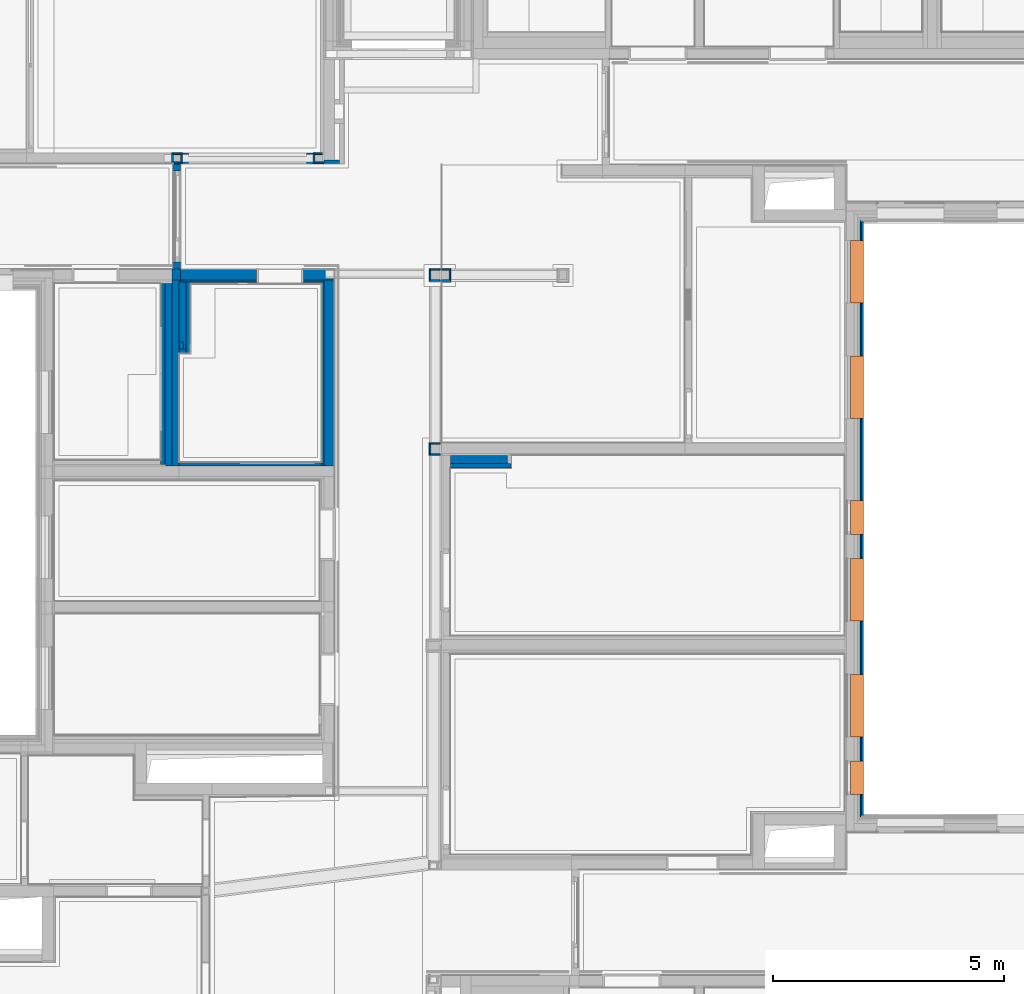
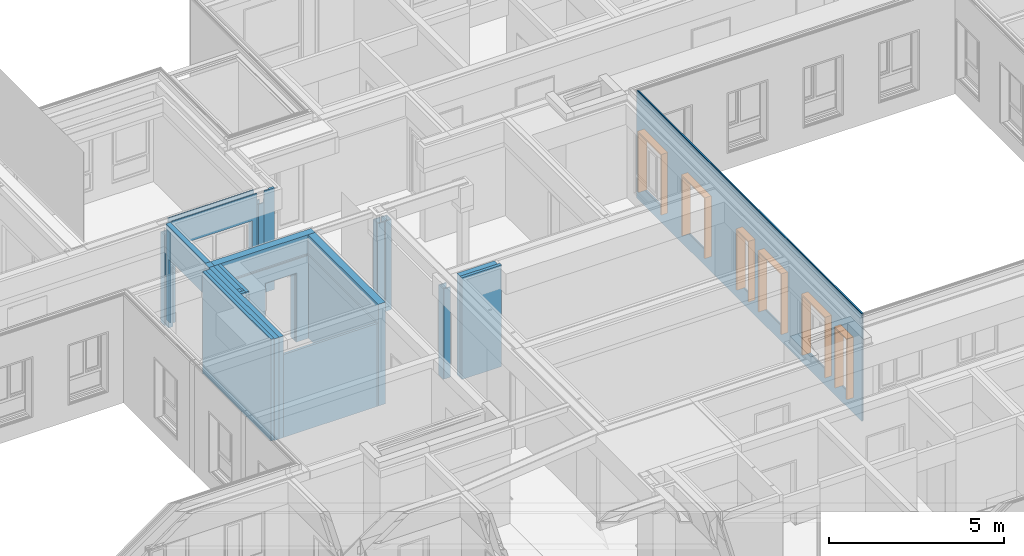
# One storey, part 45 of 222: 37 walls, 6 proxies, 17 openings.
"""IFC4 building model written with IfcOpenShell, lengths in metres."""

from ifc_helpers import new_model, entity, si_unit, converted_unit, derived_unit, frame, frame_2d, origin, origin_with_axes, place, context, subcontext, project, spatial, polyline, rectangle, outline, extrude, clip, bounded_halfspace, faceted_brep, material, element, fill, save


model = new_model("IFC4")

# Units and contexts
model_context = context("Model", 3, precision=1e-05, world=origin())
body_context = subcontext(model_context, "Body", "Model", "MODEL_VIEW")
ifc_project = project(units=[si_unit("LENGTHUNIT", "METRE"), si_unit("AREAUNIT", "SQUARE_METRE"), si_unit("VOLUMEUNIT", "CUBIC_METRE"), si_unit("MASSUNIT", "GRAM", prefix="KILO"), converted_unit("PLANEANGLEUNIT", "DEGREE", entity("IfcPlaneAngleMeasure", 0.0174532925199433), si_unit("PLANEANGLEUNIT", "RADIAN"), dimensions=[0, 0, 0, 0, 0, 0, 0]), derived_unit("THERMALTRANSMITTANCEUNIT", [(si_unit("POWERUNIT", "WATT"), 1), (si_unit("THERMODYNAMICTEMPERATUREUNIT", "KELVIN"), -1), (si_unit("LENGTHUNIT", "METRE"), -2)]), derived_unit("VOLUMETRICFLOWRATEUNIT", [(si_unit("LENGTHUNIT", "METRE"), 3), (converted_unit("TIMEUNIT", "hour", entity("IfcTimeMeasure", 3600.0), si_unit("TIMEUNIT", "SECOND"), dimensions=[0, 0, 1, 0, 0, 0, 0]), -1), (si_unit("LENGTHUNIT", "METRE"), -1)])], contexts=[model_context])

# Site, building, storey
site_placement = place(None, origin())
site = spatial("IfcSite", under=ifc_project, at=site_placement, Name="Psychiatrie Neubau Wunstorf", CompositionType="ELEMENT")
building_placement = place(site_placement, origin())
building = spatial("IfcBuilding", under=site, at=building_placement, Name="Neubau H2 Stationsgebäude", CompositionType="ELEMENT")
storey_placement = place(building_placement, frame((0.0, 0.0, 3.6)))
storey = spatial("IfcBuildingStorey", under=building, at=storey_placement, Name="H2 Ebene +1", CompositionType="ELEMENT", Elevation=3.6)

# Wall, openings
ifc_material_1 = material(Name="WA-TL")
wall_1_placement = place(storey_placement, frame((79.475, 21.640001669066, 0.0), z_axis=(0.0, 0.0, 1.0), x_axis=(0.0, -1.0, 0.0)))
wall_1 = element("IfcWall", 1, at=wall_1_placement, inside=storey, material=ifc_material_1, context=body_context, shape_type="SweptSolid", body=[
    extrude(rectangle(XDim=12.8899924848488, YDim=0.024, at=frame_2d((6.44499624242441, 0.012), x_axis=(1.0, 0.0))), origin_with_axes(), (0.0, 0.0, 1.0), 3.75),
])
opening_1_placement = place(wall_1_placement, frame((11.1565882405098, 0.024, 0.55), z_axis=(0.0, -1.0, 0.0), x_axis=(0.0, 0.0, 1.0)))
element("IfcOpeningElement", 2, at=opening_1_placement, cuts=wall_1, Name="Fensteröffnung", ObjectType="Opening", context=body_context, shape_type="SweptSolid", body=[
    extrude(outline(polyline([(2.115, 1.35), (2.115, 0.0), (0.0, 0.0), (0.0, 1.35), (2.115, 1.35)])), origin_with_axes(), (0.0, 0.0, 1.0), 0.024),
])
opening_2_placement = place(wall_1_placement, frame((8.65664578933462, 0.024, 0.55), z_axis=(0.0, -1.0, 0.0), x_axis=(0.0, 0.0, 1.0)))
element("IfcOpeningElement", 3, at=opening_2_placement, cuts=wall_1, Name="Fensteröffnung", ObjectType="Opening", context=body_context, shape_type="SweptSolid", body=[
    extrude(outline(polyline([(2.115, 1.35), (2.115, 0.0), (0.0, 0.0), (0.0, 1.35), (2.115, 1.35)])), origin_with_axes(), (0.0, 0.0, 1.0), 0.024),
])
opening_3_placement = place(wall_1_placement, frame((4.28200631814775, 0.024, 0.55), z_axis=(0.0, -1.0, 0.0), x_axis=(0.0, 0.0, 1.0)))
element("IfcOpeningElement", 4, at=opening_3_placement, cuts=wall_1, Name="Fensteröffnung", ObjectType="Opening", context=body_context, shape_type="SweptSolid", body=[
    extrude(outline(polyline([(2.115, 1.35), (2.115, 0.0), (0.0, 0.0), (0.0, 1.35), (2.115, 1.35)])), origin_with_axes(), (0.0, 0.0, 1.0), 0.024),
])
opening_4_placement = place(wall_1_placement, frame((1.78244645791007, 0.024, 0.55), z_axis=(0.0, -1.0, 0.0), x_axis=(0.0, 0.0, 1.0)))
element("IfcOpeningElement", 5, at=opening_4_placement, cuts=wall_1, Name="Fensteröffnung", ObjectType="Opening", context=body_context, shape_type="SweptSolid", body=[
    extrude(outline(polyline([(2.115, 1.35), (2.115, 0.0), (0.0, 0.0), (0.0, 1.35), (2.115, 1.35)])), origin_with_axes(), (0.0, 0.0, 1.0), 0.024),
])
opening_5_placement = place(wall_1_placement, frame((12.4050016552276, 0.024, 0.55), z_axis=(0.0, -1.0, 0.0), x_axis=(0.0, 0.0, 1.0)))
element("IfcOpeningElement", 6, at=opening_5_placement, cuts=wall_1, Name="Fensteröffnung", ObjectType="Opening", context=body_context, shape_type="SweptSolid", body=[
    extrude(outline(polyline([(2.115, 0.725), (2.115, 0.0), (0.0, 0.0), (0.0, 0.725), (2.115, 0.725)])), origin_with_axes(), (0.0, 0.0, 1.0), 0.024),
])
opening_6_placement = place(wall_1_placement, frame((6.78238889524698, 0.024, 0.55), z_axis=(0.0, -1.0, 0.0), x_axis=(0.0, 0.0, 1.0)))
element("IfcOpeningElement", 7, at=opening_6_placement, cuts=wall_1, Name="Fensteröffnung", ObjectType="Opening", context=body_context, shape_type="SweptSolid", body=[
    extrude(outline(polyline([(2.115, 0.725), (2.115, 0.0), (0.0, 0.0), (0.0, 0.725), (2.115, 0.725)])), origin_with_axes(), (0.0, 0.0, 1.0), 0.024),
])

# Wall, openings, proxies
ifc_material_2 = material(Name="WA-HS")
wall_2_placement = place(storey_placement, frame((79.499, 21.616001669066, 0.0), z_axis=(0.0, 0.0, 1.0), x_axis=(0.0, -1.0, 0.0)))
wall_2 = element("IfcWall", 8, at=wall_2_placement, inside=storey, material=ifc_material_2, context=body_context, shape_type="SweptSolid", body=[
    extrude(rectangle(XDim=12.8419924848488, YDim=0.042, at=frame_2d((6.42099624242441, 0.021), x_axis=(1.0, 0.0))), origin_with_axes(), (0.0, 0.0, 1.0), 3.75),
])
opening_7_placement = place(wall_2_placement, frame((11.1325882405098, 0.042, 0.55), z_axis=(0.0, -1.0, 0.0), x_axis=(0.0, 0.0, 1.0)))
opening_7 = element("IfcOpeningElement", 9, at=opening_7_placement, cuts=wall_2, Name="Fensteröffnung", ObjectType="Opening", context=body_context, shape_type="SweptSolid", body=[
    extrude(outline(polyline([(2.115, 1.35), (2.115, 0.0), (0.0, 0.0), (0.0, 1.35), (2.115, 1.35)])), origin_with_axes(), (0.0, 0.0, 1.0), 0.042),
])
opening_8_placement = place(wall_2_placement, frame((8.63264578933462, 0.042, 0.55), z_axis=(0.0, -1.0, 0.0), x_axis=(0.0, 0.0, 1.0)))
opening_8 = element("IfcOpeningElement", 10, at=opening_8_placement, cuts=wall_2, Name="Fensteröffnung", ObjectType="Opening", context=body_context, shape_type="SweptSolid", body=[
    extrude(outline(polyline([(2.115, 1.35), (2.115, 0.0), (0.0, 0.0), (0.0, 1.35), (2.115, 1.35)])), origin_with_axes(), (0.0, 0.0, 1.0), 0.042),
])
opening_9_placement = place(wall_2_placement, frame((4.25800631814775, 0.042, 0.55), z_axis=(0.0, -1.0, 0.0), x_axis=(0.0, 0.0, 1.0)))
opening_9 = element("IfcOpeningElement", 11, at=opening_9_placement, cuts=wall_2, Name="Fensteröffnung", ObjectType="Opening", context=body_context, shape_type="SweptSolid", body=[
    extrude(outline(polyline([(2.115, 1.35), (2.115, 0.0), (0.0, 0.0), (0.0, 1.35), (2.115, 1.35)])), origin_with_axes(), (0.0, 0.0, 1.0), 0.042),
])
opening_10_placement = place(wall_2_placement, frame((1.75844645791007, 0.042, 0.55), z_axis=(0.0, -1.0, 0.0), x_axis=(0.0, 0.0, 1.0)))
opening_10 = element("IfcOpeningElement", 12, at=opening_10_placement, cuts=wall_2, Name="Fensteröffnung", ObjectType="Opening", context=body_context, shape_type="SweptSolid", body=[
    extrude(outline(polyline([(2.115, 1.35), (2.115, 0.0), (0.0, 0.0), (0.0, 1.35), (2.115, 1.35)])), origin_with_axes(), (0.0, 0.0, 1.0), 0.042),
])
opening_11_placement = place(wall_2_placement, frame((12.3810016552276, 0.042, 0.55), z_axis=(0.0, -1.0, 0.0), x_axis=(0.0, 0.0, 1.0)))
opening_11 = element("IfcOpeningElement", 13, at=opening_11_placement, cuts=wall_2, Name="Fensteröffnung", ObjectType="Opening", context=body_context, shape_type="SweptSolid", body=[
    extrude(outline(polyline([(2.115, 0.725), (2.115, 0.0), (0.0, 0.0), (0.0, 0.725), (2.115, 0.725)])), origin_with_axes(), (0.0, 0.0, 1.0), 0.042),
])
opening_12_placement = place(wall_2_placement, frame((6.75838889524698, 0.042, 0.55), z_axis=(0.0, -1.0, 0.0), x_axis=(0.0, 0.0, 1.0)))
opening_12 = element("IfcOpeningElement", 14, at=opening_12_placement, cuts=wall_2, Name="Fensteröffnung", ObjectType="Opening", context=body_context, shape_type="SweptSolid", body=[
    extrude(outline(polyline([(2.115, 0.725), (2.115, 0.0), (0.0, 0.0), (0.0, 0.725), (2.115, 0.725)])), origin_with_axes(), (0.0, 0.0, 1.0), 0.042),
])
ifc_material_3 = material(Name="WA-HS")
proxy_1_placement = place(opening_7_placement, frame((0.0, 0.0, 0.275)))
proxy_1 = element("IfcBuildingElementProxy", 15, at=proxy_1_placement, inside=storey, material=ifc_material_3, context=body_context, shape_type="Brep", body=[
    faceted_brep([(0.0, 1.35, 0.0), (0.0, 1.35, -0.275), (2.115, 1.35, -0.275), (2.115, 1.35, 0.0), (2.115, 0.0, -0.275), (2.115, 0.0, 0.0), (0.0, 1.3, -0.275), (0.0, 1.3, 0.0), (0.0, 0.0, 0.0), (0.0, 0.05, 0.0), (2.065, 0.05, 0.0), (2.065, 1.3, 0.0), (2.065, 1.3, -0.275), (2.065, 0.05, -0.275), (0.0, 0.05, -0.275), (0.0, 0.0, -0.275)], [[[0, 1, 2, 3]], [[2, 4, 5, 3]], [[6, 1, 0, 7]], [[7, 0, 3, 5, 8, 9, 10, 11]], [[1, 6, 12, 13, 14, 15, 4, 2]], [[6, 7, 11, 12]], [[15, 8, 5, 4]], [[15, 14, 9, 8]], [[9, 14, 13, 10]], [[10, 13, 12, 11]]], orient=[[False], [False], [False], [False], [False], [False], [False], [False], [False], [False]]),
])
fill(opening_7, proxy_1)
ifc_material_4 = material(Name="WA-HS")
proxy_2_placement = place(opening_8_placement, frame((0.0, 0.0, 0.275)))
proxy_2 = element("IfcBuildingElementProxy", 16, at=proxy_2_placement, inside=storey, material=ifc_material_4, context=body_context, shape_type="Brep", body=[
    faceted_brep([(0.0, 0.0, -0.275), (0.0, 0.0, 0.0), (2.115, 0.0, 0.0), (2.115, 0.0, -0.275), (0.0, 0.05, 0.0), (0.0, 0.05, -0.275), (2.065, 0.05, -0.275), (2.065, 0.05, 0.0), (2.115, 1.35, 0.0), (2.115, 1.35, -0.275), (0.0, 1.35, -0.275), (0.0, 1.3, -0.275), (2.065, 1.3, -0.275), (2.065, 1.3, 0.0), (0.0, 1.3, 0.0), (0.0, 1.35, 0.0)], [[[0, 1, 2, 3]], [[4, 5, 6, 7]], [[0, 5, 4, 1]], [[3, 2, 8, 9]], [[6, 5, 0, 3, 9, 10, 11, 12]], [[13, 14, 15, 8, 2, 1, 4, 7]], [[7, 6, 12, 13]], [[11, 14, 13, 12]], [[15, 10, 9, 8]], [[11, 10, 15, 14]]], orient=[[False], [False], [False], [False], [False], [False], [False], [False], [False], [False]]),
])
fill(opening_8, proxy_2)
ifc_material_5 = material(Name="WA-HS")
proxy_3_placement = place(opening_9_placement, frame((0.0, 0.0, 0.275)))
proxy_3 = element("IfcBuildingElementProxy", 17, at=proxy_3_placement, inside=storey, material=ifc_material_5, context=body_context, shape_type="Brep", body=[
    faceted_brep([(0.0, 0.0, -0.275), (0.0, 0.0, 0.0), (2.115, 0.0, 0.0), (2.115, 0.0, -0.275), (0.0, 0.05, 0.0), (0.0, 0.05, -0.275), (2.065, 0.05, -0.275), (2.065, 0.05, 0.0), (2.115, 1.35, 0.0), (2.115, 1.35, -0.275), (0.0, 1.35, -0.275), (0.0, 1.3, -0.275), (2.065, 1.3, -0.275), (2.065, 1.3, 0.0), (0.0, 1.3, 0.0), (0.0, 1.35, 0.0)], [[[0, 1, 2, 3]], [[4, 5, 6, 7]], [[0, 5, 4, 1]], [[3, 2, 8, 9]], [[6, 5, 0, 3, 9, 10, 11, 12]], [[13, 14, 15, 8, 2, 1, 4, 7]], [[7, 6, 12, 13]], [[11, 14, 13, 12]], [[15, 10, 9, 8]], [[11, 10, 15, 14]]], orient=[[False], [False], [False], [False], [False], [False], [False], [False], [False], [False]]),
])
fill(opening_9, proxy_3)
ifc_material_6 = material(Name="WA-HS")
proxy_4_placement = place(opening_10_placement, frame((0.0, 0.0, 0.275)))
proxy_4 = element("IfcBuildingElementProxy", 18, at=proxy_4_placement, inside=storey, material=ifc_material_6, context=body_context, shape_type="Brep", body=[
    faceted_brep([(0.0, 1.35, 0.0), (0.0, 1.35, -0.275), (2.115, 1.35, -0.275), (2.115, 1.35, 0.0), (2.115, 0.0, -0.275), (2.115, 0.0, 0.0), (0.0, 1.3, -0.275), (0.0, 1.3, 0.0), (0.0, 0.0, 0.0), (0.0, 0.05, 0.0), (2.065, 0.05, 0.0), (2.065, 1.3, 0.0), (2.065, 1.3, -0.275), (2.065, 0.05, -0.275), (0.0, 0.05, -0.275), (0.0, 0.0, -0.275)], [[[0, 1, 2, 3]], [[2, 4, 5, 3]], [[6, 1, 0, 7]], [[7, 0, 3, 5, 8, 9, 10, 11]], [[1, 6, 12, 13, 14, 15, 4, 2]], [[6, 7, 11, 12]], [[15, 8, 5, 4]], [[15, 14, 9, 8]], [[9, 14, 13, 10]], [[10, 13, 12, 11]]], orient=[[False], [False], [False], [False], [False], [False], [False], [False], [False], [False]]),
])
fill(opening_10, proxy_4)
ifc_material_7 = material(Name="WA-HS")
proxy_5_placement = place(opening_11_placement, frame((0.0, 0.0, 0.275)))
proxy_5 = element("IfcBuildingElementProxy", 19, at=proxy_5_placement, inside=storey, material=ifc_material_7, context=body_context, shape_type="Brep", body=[
    faceted_brep([(0.0, 0.725, 0.0), (0.0, 0.725, -0.275), (2.115, 0.725, -0.275), (2.115, 0.725, 0.0), (2.115, 0.0, -0.275), (2.115, 0.0, 0.0), (0.0, 0.675, -0.275), (0.0, 0.675, 0.0), (0.0, 0.0, 0.0), (0.0, 0.05, 0.0), (2.065, 0.05, 0.0), (2.065, 0.675, 0.0), (2.065, 0.675, -0.275), (2.065, 0.05, -0.275), (0.0, 0.05, -0.275), (0.0, 0.0, -0.275)], [[[0, 1, 2, 3]], [[2, 4, 5, 3]], [[6, 1, 0, 7]], [[7, 0, 3, 5, 8, 9, 10, 11]], [[1, 6, 12, 13, 14, 15, 4, 2]], [[6, 7, 11, 12]], [[15, 8, 5, 4]], [[15, 14, 9, 8]], [[9, 14, 13, 10]], [[10, 13, 12, 11]]], orient=[[False], [False], [False], [False], [False], [False], [False], [False], [False], [False]]),
])
fill(opening_11, proxy_5)
ifc_material_8 = material(Name="WA-HS")
proxy_6_placement = place(opening_12_placement, frame((0.0, 0.0, 0.275)))
proxy_6 = element("IfcBuildingElementProxy", 20, at=proxy_6_placement, inside=storey, material=ifc_material_8, context=body_context, shape_type="Brep", body=[
    faceted_brep([(0.0, 0.0, -0.275), (0.0, 0.0, 0.0), (2.115, 0.0, 0.0), (2.115, 0.0, -0.275), (0.0, 0.05, 0.0), (0.0, 0.05, -0.275), (2.065, 0.05, -0.275), (2.065, 0.05, 0.0), (2.115, 0.725, 0.0), (2.115, 0.725, -0.275), (0.0, 0.725, -0.275), (0.0, 0.675, -0.275), (2.065, 0.675, -0.275), (2.065, 0.675, 0.0), (0.0, 0.675, 0.0), (0.0, 0.725, 0.0)], [[[0, 1, 2, 3]], [[4, 5, 6, 7]], [[0, 5, 4, 1]], [[3, 2, 8, 9]], [[6, 5, 0, 3, 9, 10, 11, 12]], [[13, 14, 15, 8, 2, 1, 4, 7]], [[7, 6, 12, 13]], [[11, 14, 13, 12]], [[15, 10, 9, 8]], [[11, 10, 15, 14]]], orient=[[False], [False], [False], [False], [False], [False], [False], [False], [False], [False]]),
])
fill(opening_12, proxy_6)

# Walls
ifc_material_9 = material(Name="WI-GKF")
wall_3_placement = place(storey_placement, frame((70.1900061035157, 16.5605, 0.0)))
element("IfcWall", 21, at=wall_3_placement, inside=storey, material=ifc_material_9, context=body_context, shape_type="SweptSolid", body=[
    extrude(rectangle(XDim=0.209993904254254, YDim=0.036, at=frame_2d((0.104996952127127, 0.018), x_axis=(1.0, 0.0))), origin_with_axes(), (0.0, 0.0, 1.0), 3.15),
])
ifc_material_10 = material(Name="WI-GKF")
wall_4_placement = place(storey_placement, frame((70.4000061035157, 16.8325, 0.0), z_axis=(0.0, 0.0, 1.0), x_axis=(-1.0, 0.0, 0.0)))
element("IfcWall", 22, at=wall_4_placement, inside=storey, material=ifc_material_10, context=body_context, shape_type="SweptSolid", body=[
    extrude(outline(polyline([(-0.200007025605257, -0.036), (0.0, -0.036), (-9.29859525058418e-07, 0.0), (-0.200007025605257, 0.0), (-0.200007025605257, -0.036)])), frame((0.200007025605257, 0.036, 0.0), z_axis=(0.0, 0.0, 1.0), x_axis=(1.0, 0.0, 0.0)), (0.0, 0.0, 1.0), 3.15),
])

# Wall, opening
ifc_material_11 = material(Name="WI-HW 60")
wall_5_placement = place(storey_placement, frame((68.1175, 20.5859981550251, 0.0), z_axis=(0.0, 0.0, 1.0), x_axis=(-1.0, -1.87390953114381e-08, 0.0)))
wall_5 = element("IfcWall", 23, at=wall_5_placement, inside=storey, material=ifc_material_11, context=body_context, shape_type="SweptSolid", body=[
    extrude(outline(polyline([(-3.32400000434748, -0.231999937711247), (0.0, -0.231999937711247), (0.0, 0.0), (-3.32400000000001, 6.22887528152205e-08), (-3.32400000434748, -0.231999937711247)])), frame((3.32400000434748, 0.231999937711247, 0.0), z_axis=(0.0, 0.0, 1.0), x_axis=(1.0, 0.0, 0.0)), (0.0, 0.0, 1.0), 3.55),
])
opening_13_placement = place(wall_5_placement, frame((0.672000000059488, -1.25926720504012e-08, 0.0), z_axis=(1.87390955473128e-08, 1.0, 0.0), x_axis=(0.0, 0.0, 1.0)))
element("IfcOpeningElement", 24, at=opening_13_placement, cuts=wall_5, Name="Türöffnung", ObjectType="Opening", context=body_context, shape_type="SweptSolid", body=[
    extrude(outline(polyline([(2.41, 1.01), (2.41, 0.0), (0.0, 0.0), (0.0, 1.01), (2.41, 1.01)])), origin_with_axes(), (0.0, 0.0, 1.0), 0.232),
])

ifc_material_12 = material(Name="Installationsraum")
wall_6_placement = place(storey_placement, frame((67.8855, 20.3539981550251, 0.0), z_axis=(0.0, 0.0, 1.0), x_axis=(-1.0, 0.0, 0.0)))
wall_6 = element("IfcWall", 25, at=wall_6_placement, inside=storey, material=ifc_material_12, context=body_context, shape_type="SweptSolid", body=[
    extrude(rectangle(XDim=3.09200000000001, YDim=0.05, at=frame_2d((1.54600000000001, 0.025), x_axis=(1.0, 0.0))), origin_with_axes(), (0.0, 0.0, 1.0), 2.9),
])
opening_14_placement = place(wall_6_placement, frame((0.440000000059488, 0.0, 0.0), z_axis=(0.0, 1.0, 0.0), x_axis=(0.0, 0.0, 1.0)))
element("IfcOpeningElement", 26, at=opening_14_placement, cuts=wall_6, Name="Türöffnung", ObjectType="Opening", context=body_context, shape_type="SweptSolid", body=[
    extrude(outline(polyline([(2.41, 1.01), (2.41, 0.0), (0.0, 0.0), (0.0, 1.01), (2.41, 1.01)])), origin_with_axes(), (0.0, 0.0, 1.0), 0.05),
])

ifc_material_13 = material(Name="WI-LB")
wall_7_placement = place(storey_placement, frame((67.8455, 20.3039981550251, 0.0), z_axis=(0.0, 0.0, 1.0), x_axis=(-1.0, 0.0, 0.0)))
wall_7 = element("IfcWall", 27, at=wall_7_placement, inside=storey, material=ifc_material_13, context=body_context, shape_type="SweptSolid", body=[
    extrude(rectangle(XDim=2.8355, YDim=0.04, at=frame_2d((1.41775, 0.02), x_axis=(1.0, 0.0))), origin_with_axes(), (0.0, 0.0, 1.0), 2.9),
])
opening_15_placement = place(wall_7_placement, frame((0.400000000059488, 0.0, 0.0), z_axis=(0.0, 1.0, 0.0), x_axis=(0.0, 0.0, 1.0)))
element("IfcOpeningElement", 28, at=opening_15_placement, cuts=wall_7, Name="Türöffnung", ObjectType="Opening", context=body_context, shape_type="SweptSolid", body=[
    extrude(outline(polyline([(2.41, 1.01), (2.41, 0.0), (0.0, 0.0), (0.0, 1.01), (2.41, 1.01)])), origin_with_axes(), (0.0, 0.0, 1.0), 0.04),
])

# Walls
ifc_material_14 = material(Name="WI-LB")
wall_8_placement = place(storey_placement, frame((67.8455, 20.3039981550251, 0.0), z_axis=(0.0, 0.0, 1.0), x_axis=(0.0, -1.0, 0.0)))
element("IfcWall", 29, at=wall_8_placement, inside=storey, material=ifc_material_14, context=body_context, shape_type="SweptSolid", body=[
    extrude(rectangle(XDim=3.96799815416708, YDim=0.04, at=frame_2d((1.98399907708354, 0.02), x_axis=(1.0, 0.0))), origin_with_axes(), (0.0, 0.0, 1.0), 2.9),
])
ifc_material_15 = material(Name="WI-HW 60")
wall_9_placement = place(storey_placement, frame((67.8855, 20.3539981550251, 0.0), z_axis=(0.0, 0.0, 1.0), x_axis=(0.0, -1.0, 0.0)))
element("IfcWall", 30, at=wall_9_placement, inside=storey, material=ifc_material_15, context=body_context, shape_type="SweptSolid", body=[
    extrude(rectangle(XDim=4.01799815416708, YDim=0.232, at=frame_2d((2.00899907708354, 0.116), x_axis=(1.0, 0.0))), origin_with_axes(), (0.0, 0.0, 1.0), 3.55),
])
ifc_material_16 = material(Name="WI-GKF")
wall_10_placement = place(storey_placement, frame((70.1640061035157, 16.8325, 0.0), z_axis=(0.0, 0.0, 1.0), x_axis=(0.0, -1.0, 0.0)))
element("IfcWall", 31, at=wall_10_placement, inside=storey, material=ifc_material_16, context=body_context, shape_type="SweptSolid", body=[
    extrude(outline(polyline([(-0.272, 0.0), (0.0, 0.0), (0.0, 0.026), (-0.036, 0.026), (-0.036, 0.0359939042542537), (-0.236000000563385, 0.0359939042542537), (-0.272, 0.0359929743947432), (-0.272, 0.0)])), frame((0.272, 0.0, 0.0), z_axis=(0.0, 0.0, 1.0), x_axis=(1.0, 0.0, 0.0)), (0.0, 0.0, 1.0), 3.15),
])
ifc_material_17 = material(Name="WI-GKF")
wall_11_placement = place(storey_placement, frame((70.4000000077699, 20.5920009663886, 0.0), z_axis=(0.0, 0.0, 1.0), x_axis=(-1.0, 0.0, 0.0)))
element("IfcWall", 32, at=wall_11_placement, inside=storey, material=ifc_material_17, context=body_context, shape_type="SweptSolid", body=[
    extrude(rectangle(XDim=0.235992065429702, YDim=0.036, at=frame_2d((0.117996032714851, 0.018), x_axis=(1.0, 0.0))), origin_with_axes(), (0.0, 0.0, 1.0), 3.15),
])
ifc_material_18 = material(Name="WI-GKF")
wall_12_placement = place(storey_placement, frame((70.1640079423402, 20.3200009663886, 0.0)))
element("IfcWall", 33, at=wall_12_placement, inside=storey, material=ifc_material_18, context=body_context, shape_type="SweptSolid", body=[
    extrude(rectangle(XDim=0.235992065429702, YDim=0.036, at=frame_2d((0.117996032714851, 0.018), x_axis=(1.0, 0.0))), origin_with_axes(), (0.0, 0.0, 1.0), 3.15),
])
ifc_material_19 = material(Name="WI-GKF")
wall_13_placement = place(storey_placement, frame((70.4300000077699, 20.3200009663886, 0.0)))
element("IfcWall", 34, at=wall_13_placement, inside=storey, material=ifc_material_19, context=body_context, shape_type="SweptSolid", body=[
    extrude(rectangle(XDim=0.196, YDim=0.036, at=frame_2d((0.098, 0.018), x_axis=(1.0, 0.0))), origin_with_axes(), (0.0, 0.0, 1.0), 3.15),
])
ifc_material_20 = material(Name="WI-GKF")
wall_14_placement = place(storey_placement, frame((70.1640079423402, 20.5560009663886, 0.0), z_axis=(0.0, 0.0, 1.0), x_axis=(0.0, -1.0, 0.0)))
element("IfcWall", 35, at=wall_14_placement, inside=storey, material=ifc_material_20, context=body_context, shape_type="SweptSolid", body=[
    extrude(outline(polyline([(-0.2, 0.0), (0.0, 0.0), (0.0, 0.0359981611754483), (-0.144624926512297, 0.0359920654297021), (-0.144624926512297, 0.0359981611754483), (-0.2, 0.0359981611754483), (-0.2, 0.0)])), frame((0.2, 0.0, 0.0), z_axis=(0.0, 0.0, 1.0), x_axis=(1.0, 0.0, 0.0)), (0.0, 0.0, 1.0), 3.15),
])
ifc_material_21 = material(Name="WI-GKF")
wall_15_placement = place(storey_placement, frame((70.6260000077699, 20.3560009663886, 0.0), z_axis=(0.0, 0.0, 1.0), x_axis=(0.0, 1.0, 0.0)))
element("IfcWall", 36, at=wall_15_placement, inside=storey, material=ifc_material_21, context=body_context, shape_type="SweptSolid", body=[
    extrude(rectangle(XDim=0.200002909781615, YDim=0.036, at=frame_2d((0.100001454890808, 0.018), x_axis=(1.0, 0.0))), origin_with_axes(), (0.0, 0.0, 1.0), 3.15),
])
ifc_material_22 = material(Name="WI-GKF")
wall_16_placement = place(storey_placement, frame((70.6260000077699, 20.5920009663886, 0.0), z_axis=(0.0, 0.0, 1.0), x_axis=(-1.0, 0.0, 0.0)))
element("IfcWall", 37, at=wall_16_placement, inside=storey, material=ifc_material_22, context=body_context, shape_type="SweptSolid", body=[
    extrude(outline(polyline([(-0.196, -0.036), (0.0, -0.036), (0.0, 0.0), (-0.16, 0.0), (-0.16, -2.90978161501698e-06), (-0.196, -2.90978161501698e-06), (-0.196, -0.036)])), frame((0.196, 0.036, 0.0), z_axis=(0.0, 0.0, 1.0), x_axis=(1.0, 0.0, 0.0)), (0.0, 0.0, 1.0), 3.15),
])
ifc_material_23 = material(Name="WI-IW")
wall_17_placement = place(storey_placement, frame((64.76, 18.7609960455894, 0.0)))
element("IfcWall", 38, at=wall_17_placement, inside=storey, material=ifc_material_23, context=body_context, shape_type="SweptSolid", body=[
    extrude(rectangle(XDim=0.15, YDim=0.1, at=frame_2d((0.075, 0.05), x_axis=(1.0, 0.0))), origin_with_axes(), (0.0, 0.0, 1.0), 3.55),
])
ifc_material_24 = material(Name="Installationsraum")
wall_18_placement = place(storey_placement, frame((64.76, 18.8609960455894, 0.0)))
element("IfcWall", 39, at=wall_18_placement, inside=storey, material=ifc_material_24, context=body_context, shape_type="SweptSolid", body=[
    extrude(rectangle(XDim=0.100000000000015, YDim=0.15, at=frame_2d((0.0500000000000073, 0.075), x_axis=(1.0, 0.0))), origin_with_axes(), (0.0, 0.0, 1.0), 3.55),
])
ifc_material_25 = material(Name="WI-LB")
wall_19_placement = place(storey_placement, frame((67.889, 22.8639999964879, 0.0)))
element("IfcWall", 40, at=wall_19_placement, inside=storey, material=ifc_material_25, context=body_context, shape_type="Clipping", body=[
    clip(extrude(rectangle(XDim=0.332, YDim=0.075, at=frame_2d((0.166, 0.0375), x_axis=(1.0, 0.0))), origin_with_axes(), (0.0, 0.0, 1.0), 3.55), bounded_halfspace(frame((0.0819999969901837, 0.0555000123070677, 3.25), z_axis=(0.0, 0.0, -1.0), x_axis=(-1.0, 0.0, 0.0)), True, origin_with_axes(), polyline([(0.163999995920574, 0.075), (0.0, 0.075), (0.0, 0.0360000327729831), (0.163999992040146, 0.0360000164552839), (0.163999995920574, 0.075)]))),
])
ifc_material_26 = material(Name="WI-IW")
wall_20_placement = place(storey_placement, frame((64.36, 20.2789981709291, 0.0), z_axis=(0.0, 0.0, 1.0), x_axis=(0.0, -1.0, 0.0)))
element("IfcWall", 41, at=wall_20_placement, inside=storey, material=ifc_material_26, context=body_context, shape_type="SweptSolid", body=[
    extrude(rectangle(XDim=3.91799817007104, YDim=0.1, at=frame_2d((1.95899908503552, 0.05), x_axis=(1.0, 0.0))), origin_with_axes(), (0.0, 0.0, 1.0), 3.55),
])
ifc_material_27 = material(Name="Installationsraum")
wall_21_placement = place(storey_placement, frame((64.46, 20.2789981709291, 0.0), z_axis=(0.0, 0.0, 1.0), x_axis=(0.0, -1.0, 0.0)))
element("IfcWall", 42, at=wall_21_placement, inside=storey, material=ifc_material_27, context=body_context, shape_type="SweptSolid", body=[
    extrude(rectangle(XDim=3.94299817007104, YDim=0.15, at=frame_2d((1.97149908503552, 0.075), x_axis=(1.0, 0.0))), origin_with_axes(), (0.0, 0.0, 1.0), 3.55),
])
ifc_material_28 = material(Name="WI-IW")
wall_22_placement = place(storey_placement, frame((65.01, 18.7609960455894, 0.0), z_axis=(0.0, 0.0, 1.0), x_axis=(0.0, 1.0, 0.0)))
element("IfcWall", 43, at=wall_22_placement, inside=storey, material=ifc_material_28, context=body_context, shape_type="SweptSolid", body=[
    extrude(rectangle(XDim=1.59300210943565, YDim=0.1, at=frame_2d((0.796501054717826, 0.05), x_axis=(1.0, 0.0))), origin_with_axes(), (0.0, 0.0, 1.0), 3.55),
])
ifc_material_29 = material(Name="Installationsraum")
wall_23_placement = place(storey_placement, frame((64.91, 18.8609960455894, 0.0), z_axis=(0.0, 0.0, 1.0), x_axis=(0.0, 1.0, 0.0)))
element("IfcWall", 44, at=wall_23_placement, inside=storey, material=ifc_material_29, context=body_context, shape_type="SweptSolid", body=[
    extrude(outline(polyline([(0.0, -0.15), (1.49300210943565, -0.15), (1.49300210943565, 0.0), (0.15, 0.0), (0.15, -0.1), (0.0, -0.1), (0.0, -0.15)])), frame((0.0, 0.15, 0.0), z_axis=(0.0, 0.0, 1.0), x_axis=(1.0, 0.0, 0.0)), (0.0, 0.0, 1.0), 3.55),
])
ifc_material_30 = material(Name="WI-IW")
wall_24_placement = place(storey_placement, frame((67.8455, 16.411000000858, 0.0), z_axis=(0.0, 0.0, 1.0), x_axis=(-1.0, 0.0, 0.0)))
element("IfcWall", 45, at=wall_24_placement, inside=storey, material=ifc_material_30, context=body_context, shape_type="SweptSolid", body=[
    extrude(rectangle(XDim=3.08550000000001, YDim=0.0750000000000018, at=frame_2d((1.54275000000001, 0.0375000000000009), x_axis=(1.0, 0.0))), origin_with_axes(), (0.0, 0.0, 1.0), 2.9),
])
ifc_material_31 = material(Name="WI-LB")
wall_25_placement = place(storey_placement, frame((64.76, 16.336000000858, 0.0), z_axis=(0.0, 0.0, 1.0), x_axis=(0.0, 1.0, 0.0)))
element("IfcWall", 46, at=wall_25_placement, inside=storey, material=ifc_material_31, context=body_context, shape_type="SweptSolid", body=[
    extrude(rectangle(XDim=4.01799815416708, YDim=0.15, at=frame_2d((2.00899907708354, 0.075), x_axis=(1.0, 0.0))), origin_with_axes(), (0.0, 0.0, 1.0), 3.55),
])

# Wall, opening
ifc_material_32 = material(Name="WI-LW 60")
wall_26_placement = place(storey_placement, frame((64.6385, 22.8639999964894, 0.0), z_axis=(0.0, 0.0, 1.0), x_axis=(0.0, -1.0, 0.0)))
wall_26 = element("IfcWall", 47, at=wall_26_placement, inside=storey, material=ifc_material_32, context=body_context, shape_type="SweptSolid", body=[
    extrude(rectangle(XDim=2.27800196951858, YDim=0.155000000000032, at=frame_2d((1.13900098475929, 0.0775000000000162), x_axis=(1.0, 0.0))), origin_with_axes(), (0.0, 0.0, 1.0), 3.55),
])
opening_16_placement = place(wall_26_placement, frame((0.155000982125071, 0.0, 0.0), z_axis=(0.0, 1.0, 0.0), x_axis=(0.0, 0.0, 1.0)))
element("IfcOpeningElement", 48, at=opening_16_placement, cuts=wall_26, Name="Türöffnung", ObjectType="Opening", context=body_context, shape_type="SweptSolid", body=[
    extrude(outline(polyline([(2.41, 1.968), (2.41, 0.0), (0.0, 0.0), (0.0, 1.968), (2.41, 1.968)])), origin_with_axes(), (0.0, 0.0, 1.0), 0.155),
])

# Walls
ifc_material_33 = material(Name="WI-IW")
wall_27_placement = place(storey_placement, frame((70.6200000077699, 16.2855, 0.0)))
element("IfcWall", 49, at=wall_27_placement, inside=storey, material=ifc_material_33, context=body_context, shape_type="SweptSolid", body=[
    extrude(rectangle(XDim=1.30999999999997, YDim=0.1, at=frame_2d((0.654999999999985, 0.05), x_axis=(1.0, 0.0))), origin_with_axes(), (0.0, 0.0, 1.0), 3.55),
])
ifc_material_34 = material(Name="Installationsraum")
wall_28_placement = place(storey_placement, frame((70.6200000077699, 16.3855, 0.0)))
element("IfcWall", 50, at=wall_28_placement, inside=storey, material=ifc_material_34, context=body_context, shape_type="SweptSolid", body=[
    extrude(rectangle(XDim=1.23499999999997, YDim=0.175, at=frame_2d((0.617499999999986, 0.0875), x_axis=(1.0, 0.0))), origin_with_axes(), (0.0, 0.0, 1.0), 3.55),
])
ifc_material_35 = material(Name="WI-GKF")
wall_29_placement = place(storey_placement, frame((67.657, 23.096000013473, 0.0), z_axis=(0.0, 0.0, 1.0), x_axis=(0.0, -1.0, 0.0)))
element("IfcWall", 51, at=wall_29_placement, inside=storey, material=ifc_material_35, context=body_context, shape_type="SweptSolid", body=[
    extrude(rectangle(XDim=0.232, YDim=0.036, at=frame_2d((0.116, 0.018), x_axis=(1.0, 0.0))), origin_with_axes(), (0.0, 0.0, 1.0), 3.15),
])
ifc_material_36 = material(Name="WI-GKF")
wall_30_placement = place(storey_placement, frame((67.693, 22.864000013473, 0.0)))
element("IfcWall", 52, at=wall_30_placement, inside=storey, material=ifc_material_36, context=body_context, shape_type="SweptSolid", body=[
    extrude(rectangle(XDim=0.196, YDim=0.036, at=frame_2d((0.098, 0.018), x_axis=(1.0, 0.0))), origin_with_axes(), (0.0, 0.0, 1.0), 3.15),
])
ifc_material_37 = material(Name="WI-GKF")
wall_31_placement = place(storey_placement, frame((67.853, 23.096000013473, 0.0), z_axis=(0.0, 0.0, 1.0), x_axis=(-1.0, 0.0, 0.0)))
element("IfcWall", 53, at=wall_31_placement, inside=storey, material=ifc_material_37, context=body_context, shape_type="SweptSolid", body=[
    extrude(rectangle(XDim=0.16, YDim=0.036, at=frame_2d((0.08, 0.018), x_axis=(1.0, 0.0))), origin_with_axes(), (0.0, 0.0, 1.0), 3.15),
])
ifc_material_38 = material(Name="WI-GKF")
wall_32_placement = place(storey_placement, frame((64.6, 23.09600018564, 0.0), z_axis=(0.0, 0.0, 1.0), x_axis=(0.0, -1.0, 0.0)))
element("IfcWall", 54, at=wall_32_placement, inside=storey, material=ifc_material_38, context=body_context, shape_type="SweptSolid", body=[
    extrude(rectangle(XDim=0.232, YDim=0.036, at=frame_2d((0.116, 0.018), x_axis=(1.0, 0.0))), origin_with_axes(), (0.0, 0.0, 1.0), 3.15),
])
ifc_material_39 = material(Name="WI-GKF")
wall_33_placement = place(storey_placement, frame((64.636, 22.86400018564, 0.0)))
element("IfcWall", 55, at=wall_33_placement, inside=storey, material=ifc_material_39, context=body_context, shape_type="SweptSolid", body=[
    extrude(rectangle(XDim=0.196, YDim=0.036, at=frame_2d((0.098, 0.018), x_axis=(1.0, 0.0))), origin_with_axes(), (0.0, 0.0, 1.0), 3.15),
])

# Wall, opening
ifc_material_40 = material(Name="WI-LW 60")
wall_34_placement = place(storey_placement, frame((67.657, 23.0959999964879, 0.0), z_axis=(0.0, 0.0, 1.0), x_axis=(-1.0, 0.0, 0.0)))
wall_34 = element("IfcWall", 56, at=wall_34_placement, inside=storey, material=ifc_material_40, context=body_context, shape_type="Clipping", body=[
    clip(extrude(rectangle(XDim=2.825, YDim=0.232, at=frame_2d((1.4125, 0.116), x_axis=(1.0, 0.0))), origin_with_axes(), (0.0, 0.0, 1.0), 3.55), bounded_halfspace(frame((1.4125, 0.115999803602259, 3.25), z_axis=(0.0, 0.0, -1.0), x_axis=(0.0, -1.0, 0.0)), True, origin_with_axes(), polyline([(0.0, 0.195999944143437), (0.0, 0.0359996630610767), (2.825, 0.0359996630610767), (2.825, 0.195999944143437), (0.0, 0.195999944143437)]))),
])
opening_17_placement = place(wall_34_placement, frame((2.6975, 0.232, 0.0), z_axis=(0.0, -1.0, 0.0), x_axis=(0.0, 0.0, 1.0)))
element("IfcOpeningElement", 57, at=opening_17_placement, cuts=wall_34, Name="Türöffnung", ObjectType="Opening", context=body_context, shape_type="SweptSolid", body=[
    extrude(outline(polyline([(2.65, 2.55), (2.65, 0.0), (0.0, 0.0), (0.0, 2.55), (2.65, 2.55)])), origin_with_axes(), (0.0, 0.0, 1.0), 0.232),
])

# Walls
ifc_material_41 = material(Name="WI-GKF")
wall_35_placement = place(storey_placement, frame((64.832, 22.90000018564, 0.0), z_axis=(0.0, 0.0, 1.0), x_axis=(0.0, 1.0, 0.0)))
element("IfcWall", 58, at=wall_35_placement, inside=storey, material=ifc_material_41, context=body_context, shape_type="SweptSolid", body=[
    extrude(rectangle(XDim=0.196, YDim=0.036, at=frame_2d((0.098, 0.018), x_axis=(1.0, 0.0))), origin_with_axes(), (0.0, 0.0, 1.0), 3.15),
])
ifc_material_42 = material(Name="WI-GKF")
wall_36_placement = place(storey_placement, frame((64.796, 23.09600018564, 0.0), z_axis=(0.0, 0.0, 1.0), x_axis=(-1.0, 0.0, 0.0)))
element("IfcWall", 59, at=wall_36_placement, inside=storey, material=ifc_material_42, context=body_context, shape_type="SweptSolid", body=[
    extrude(rectangle(XDim=0.16, YDim=0.036, at=frame_2d((0.08, 0.018), x_axis=(1.0, 0.0))), origin_with_axes(), (0.0, 0.0, 1.0), 3.15),
])
ifc_material_43 = material(Name="WI-HW 60")
wall_37_placement = place(storey_placement, frame((64.61, 20.3539981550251, 0.0)))
element("IfcWall", 60, at=wall_37_placement, inside=storey, material=ifc_material_43, context=body_context, shape_type="SweptSolid", body=[
    extrude(rectangle(XDim=0.183500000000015, YDim=0.231999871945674, at=frame_2d((0.0917500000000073, 0.115999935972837), x_axis=(1.0, 0.0))), origin_with_axes(), (0.0, 0.0, 1.0), 3.55),
])

save(model, "model.ifc")
